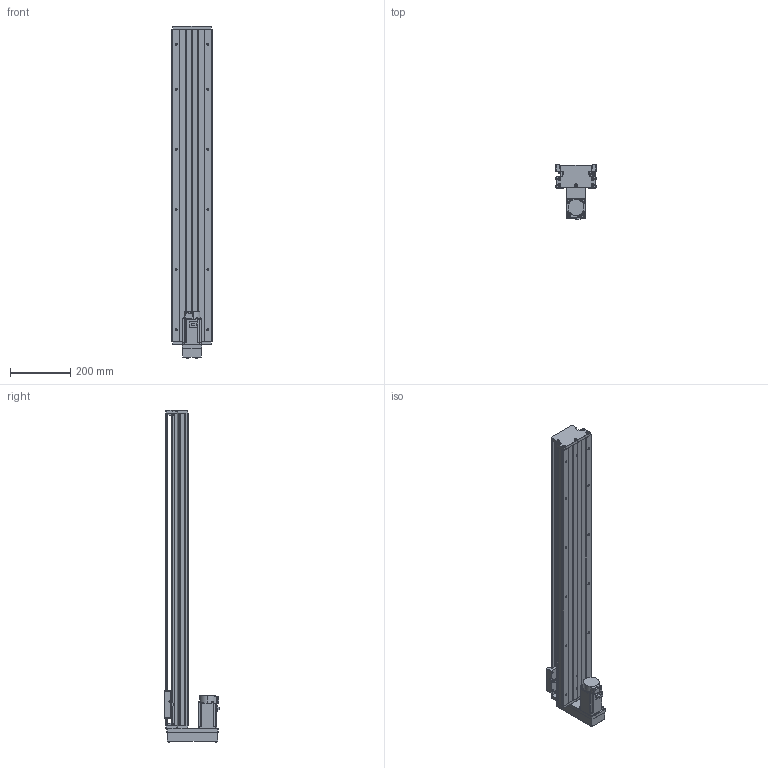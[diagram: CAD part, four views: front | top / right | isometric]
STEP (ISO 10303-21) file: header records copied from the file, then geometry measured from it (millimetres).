
FILE_DESCRIPTION (( 'STEP AP203' ), '1' );
FILE_NAME ('KTH130-900-BM-M40-C4.step', '2023-06-30T04:06:14', ( '微软用户' ), ( '微软中国' ), 'SwSTEP 2.0', 'SolidWorks 2020', '' );
FILE_SCHEMA (( 'CONFIG_CONTROL_DESIGN' ));
Length unit declared in the file: millimetre
Products named in the file (19): KTH130-004; GBT 70.3-M3℅8; CTHA60-017; HG-KN43J-S100; EE_SX911P_R; GBT 70.2-M4¡Á35_M4¡Á35; CTHA60-016; GTH14-015-2_CTHA86-015-2; KTH130-005; GBT 70.1-M3℅5; GTH14-033; GB1155-6X6; GTH14-001_900; GBT77-2000 M3×3; KTH130-900-BM-M40-C4; GBT70.1 M5℅16; KTH130-002_KTH130-002; す晦芛蹟隊 M3℅5; GBT 70.2-M3¡Á5_M3¡Á6
Assembly tree (53 placements, depth 2):
  KTH130-900-BM-M40-C4
    GTH14-001_900
    KTH130-002_KTH130-002
    KTH130-004
    KTH130-005
    GB1155-6X6  x2
    GBT70.1 M5℅16  x10
    GBT 70.2-M3¡Á5_M3¡Á6  x4
    CTHA60-017  x3
    EE_SX911P_R  x3
    CTHA60-016  x2
    GBT 70.1-M3℅5  x6
    GBT77-2000 M3×3  x6
    す晦芛蹟隊 M3℅5  x2
    GBT 70.3-M3℅8  x4
    HG-KN43J-S100
    GBT 70.2-M4¡Á35_M4¡Á35  x4
    GTH14-015-2_CTHA86-015-2
    GTH14-033
Bounding box: 135 x 181.8 x 1104.2 mm (x, y, z)
Volume: 6177273.4 mm3; surface area: 983451.4 mm2
Topology: 56 solids, 56 shells, 2233 faces, 5390 edges, 3358 vertices
Faces by surface type: plane 1199, cylinder 620, cone 290, torus 100, sphere 24
Entity records: 40866 total; most frequent: CARTESIAN_POINT 8684, DIRECTION 6099, ORIENTED_EDGE 5980, EDGE_CURVE 2990, AXIS2_PLACEMENT_3D 2104, VERTEX_POINT 1911, LINE 1891, VECTOR 1891
